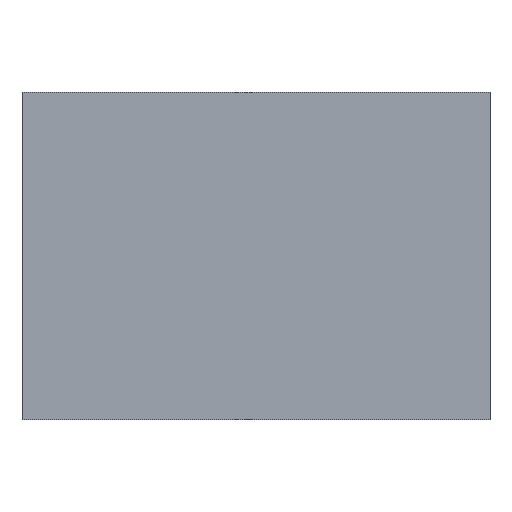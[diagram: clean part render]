
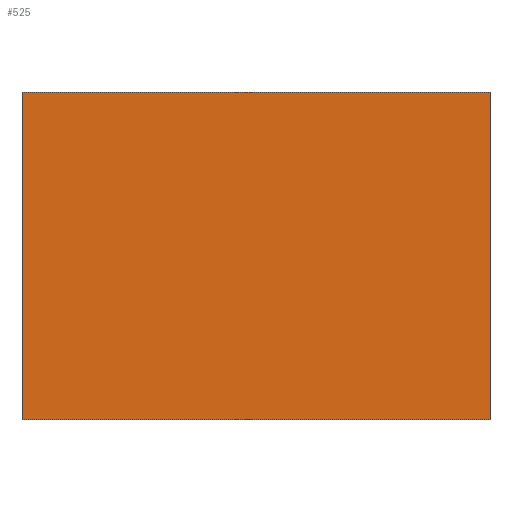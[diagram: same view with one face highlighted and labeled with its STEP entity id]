
A CAD part, front view. The second image highlights one B-rep face of the part: STEP entity #525.
In plain terms, the highlighted free-form (B-spline) face has degree [1, 1] with [2, 2] control points.
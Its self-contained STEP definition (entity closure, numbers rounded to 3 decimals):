
#158 = VERTEX_POINT('',#159);
#159 = CARTESIAN_POINT('',(14.,0.,9.8));
#164 = EDGE_CURVE('',#158,#165,#167,.T.);
#165 = VERTEX_POINT('',#166);
#166 = CARTESIAN_POINT('',(14.,0.,0.));
#167 = B_SPLINE_CURVE_WITH_KNOTS('',1,(#168,#169),.UNSPECIFIED.,.F.,.F.,
  (2,2),(2.,11.8),.PIECEWISE_BEZIER_KNOTS.);
#168 = CARTESIAN_POINT('',(14.,0.,9.8));
#169 = CARTESIAN_POINT('',(14.,0.,0.));
#217 = VERTEX_POINT('',#218);
#218 = CARTESIAN_POINT('',(0.,0.,9.8));
#223 = EDGE_CURVE('',#217,#224,#226,.T.);
#224 = VERTEX_POINT('',#225);
#225 = CARTESIAN_POINT('',(0.,0.,0.));
#226 = B_SPLINE_CURVE_WITH_KNOTS('',1,(#227,#228),.UNSPECIFIED.,.F.,.F.,
  (2,2),(2.,11.8),.PIECEWISE_BEZIER_KNOTS.);
#227 = CARTESIAN_POINT('',(0.,0.,9.8));
#228 = CARTESIAN_POINT('',(0.,0.,0.));
#513 = EDGE_CURVE('',#224,#165,#514,.T.);
#514 = B_SPLINE_CURVE_WITH_KNOTS('',1,(#515,#516),.UNSPECIFIED.,.F.,.F.,
  (2,2),(22.,36.),.PIECEWISE_BEZIER_KNOTS.);
#515 = CARTESIAN_POINT('',(0.,0.,0.));
#516 = CARTESIAN_POINT('',(14.,0.,0.));
#525 = ADVANCED_FACE('',(#526),#536,.T.);
#526 = FACE_BOUND('',#527,.T.);
#527 = EDGE_LOOP('',(#528,#533,#534,#535));
#528 = ORIENTED_EDGE('',*,*,#529,.F.);
#529 = EDGE_CURVE('',#217,#158,#530,.T.);
#530 = B_SPLINE_CURVE_WITH_KNOTS('',1,(#531,#532),.UNSPECIFIED.,.F.,.F.,
  (2,2),(22.,36.),.PIECEWISE_BEZIER_KNOTS.);
#531 = CARTESIAN_POINT('',(0.,0.,9.8));
#532 = CARTESIAN_POINT('',(14.,0.,9.8));
#533 = ORIENTED_EDGE('',*,*,#223,.T.);
#534 = ORIENTED_EDGE('',*,*,#513,.T.);
#535 = ORIENTED_EDGE('',*,*,#164,.F.);
#536 = B_SPLINE_SURFACE_WITH_KNOTS('',1,1,(
    (#537,#538)
    ,(#539,#540
    )),.UNSPECIFIED.,.F.,.F.,.F.,(2,2),(2,2),(0.,9.8),(22.,36.),
  .PIECEWISE_BEZIER_KNOTS.);
#537 = CARTESIAN_POINT('',(0.,0.,9.8));
#538 = CARTESIAN_POINT('',(14.,0.,9.8));
#539 = CARTESIAN_POINT('',(0.,0.,0.));
#540 = CARTESIAN_POINT('',(14.,0.,0.));
